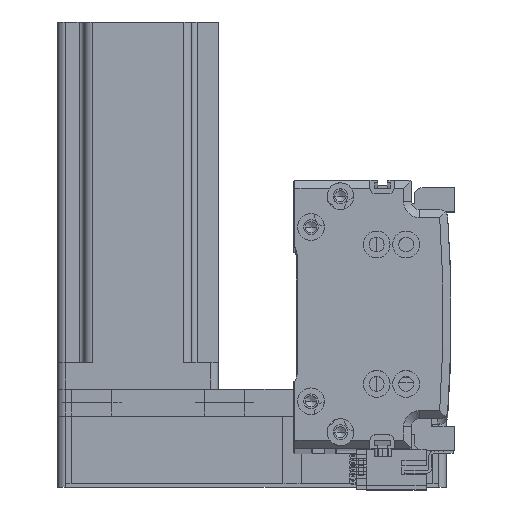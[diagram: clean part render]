
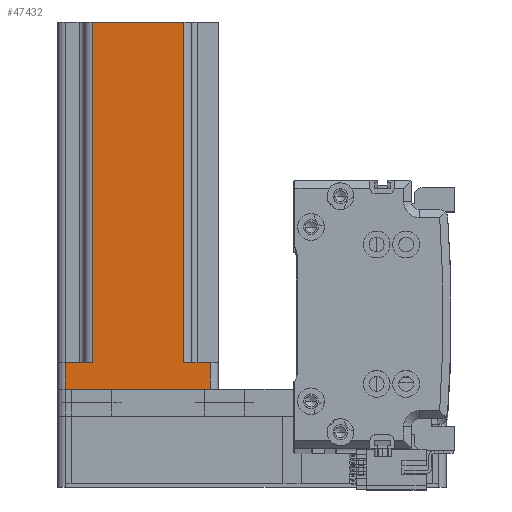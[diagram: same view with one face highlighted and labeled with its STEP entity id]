
A CAD part, top view. The second image highlights one B-rep face of the part: STEP entity #47432.
In plain terms, the highlighted planar face has unit normal (0, 0, 1) as drawn and (0, 1, 0) by its records, which use the part's own axes.
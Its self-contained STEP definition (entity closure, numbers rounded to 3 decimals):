
#334 = DIRECTION ( 'NONE',  ( -1., 0., 0. ) ) ;
#1390 = LINE ( 'NONE', #8682, #32521 ) ;
#1657 = DIRECTION ( 'NONE',  ( -1., 0., 0. ) ) ;
#1842 = ORIENTED_EDGE ( 'NONE', *, *, #44082, .T. ) ;
#2046 = LINE ( 'NONE', #34537, #23225 ) ;
#2702 = LINE ( 'NONE', #3119, #13983 ) ;
#2767 = EDGE_CURVE ( 'NONE', #13855, #40050, #41997, .T. ) ;
#3119 = CARTESIAN_POINT ( 'NONE',  ( -20., 30., 10. ) ) ;
#4446 = ORIENTED_EDGE ( 'NONE', *, *, #44759, .T. ) ;
#4705 = ORIENTED_EDGE ( 'NONE', *, *, #42942, .F. ) ;
#5357 = ORIENTED_EDGE ( 'NONE', *, *, #2767, .T. ) ;
#5372 = EDGE_LOOP ( 'NONE', ( #12897, #5357, #4705, #13556, #36472, #1842, #4446, #18772 ) ) ;
#7037 = LINE ( 'NONE', #27005, #39549 ) ;
#7282 = CARTESIAN_POINT ( 'NONE',  ( -27., 30., 0. ) ) ;
#8682 = CARTESIAN_POINT ( 'NONE',  ( 20., 30., 10. ) ) ;
#10559 = LINE ( 'NONE', #47321, #54307 ) ;
#11594 = CARTESIAN_POINT ( 'NONE',  ( 27., 30., 0. ) ) ;
#12897 = ORIENTED_EDGE ( 'NONE', *, *, #33602, .T. ) ;
#12949 = DIRECTION ( 'NONE',  ( -1., 0., 0. ) ) ;
#13556 = ORIENTED_EDGE ( 'NONE', *, *, #45282, .T. ) ;
#13855 = VERTEX_POINT ( 'NONE', #32602 ) ;
#13983 = VECTOR ( 'NONE', #28452, 1000. ) ;
#15966 = CARTESIAN_POINT ( 'NONE',  ( 27., 30., 137. ) ) ;
#16202 = CARTESIAN_POINT ( 'NONE',  ( 30., 30., 137. ) ) ;
#16845 = CARTESIAN_POINT ( 'NONE',  ( 27., 30., 10. ) ) ;
#18772 = ORIENTED_EDGE ( 'NONE', *, *, #45972, .T. ) ;
#20027 = DIRECTION ( 'NONE',  ( 0., 0., -1. ) ) ;
#20112 = CARTESIAN_POINT ( 'NONE',  ( -17., 30., 137. ) ) ;
#20263 = PLANE ( 'NONE',  #20945 ) ;
#20447 = DIRECTION ( 'NONE',  ( 1., 0., 0. ) ) ;
#20945 = AXIS2_PLACEMENT_3D ( 'NONE', #16202, #45832, #20447 ) ;
#21921 = DIRECTION ( 'NONE',  ( 0., 0., 1. ) ) ;
#23225 = VECTOR ( 'NONE', #26192, 1000. ) ;
#23330 = LINE ( 'NONE', #15966, #45920 ) ;
#24346 = DIRECTION ( 'NONE',  ( 0., 0., 1. ) ) ;
#25234 = VERTEX_POINT ( 'NONE', #27949 ) ;
#26155 = VERTEX_POINT ( 'NONE', #35393 ) ;
#26192 = DIRECTION ( 'NONE',  ( 0., 0., -1. ) ) ;
#26696 = VERTEX_POINT ( 'NONE', #11594 ) ;
#27005 = CARTESIAN_POINT ( 'NONE',  ( 30., 30., 137. ) ) ;
#27504 = FACE_OUTER_BOUND ( 'NONE', #5372, .T. ) ;
#27949 = CARTESIAN_POINT ( 'NONE',  ( -27., 30., 10. ) ) ;
#28452 = DIRECTION ( 'NONE',  ( 1., 0., 0. ) ) ;
#30534 = VECTOR ( 'NONE', #334, 1000. ) ;
#32030 = VECTOR ( 'NONE', #24346, 1000. ) ;
#32521 = VECTOR ( 'NONE', #12949, 1000. ) ;
#32602 = CARTESIAN_POINT ( 'NONE',  ( -17., 30., 10. ) ) ;
#33602 = EDGE_CURVE ( 'NONE', #25234, #13855, #2702, .T. ) ;
#33721 = EDGE_CURVE ( 'NONE', #51626, #26155, #1390, .T. ) ;
#34537 = CARTESIAN_POINT ( 'NONE',  ( 17., 30., 137. ) ) ;
#35393 = CARTESIAN_POINT ( 'NONE',  ( 17., 30., 10. ) ) ;
#36472 = ORIENTED_EDGE ( 'NONE', *, *, #33721, .F. ) ;
#38311 = CARTESIAN_POINT ( 'NONE',  ( 30., 30., 0. ) ) ;
#39549 = VECTOR ( 'NONE', #1657, 1000. ) ;
#39657 = VERTEX_POINT ( 'NONE', #41151 ) ;
#40050 = VERTEX_POINT ( 'NONE', #47975 ) ;
#41151 = CARTESIAN_POINT ( 'NONE',  ( 17., 30., 137. ) ) ;
#41830 = LINE ( 'NONE', #38311, #30534 ) ;
#41997 = LINE ( 'NONE', #20112, #32030 ) ;
#42942 = EDGE_CURVE ( 'NONE', #39657, #40050, #7037, .T. ) ;
#44082 = EDGE_CURVE ( 'NONE', #51626, #26696, #23330, .T. ) ;
#44759 = EDGE_CURVE ( 'NONE', #26696, #50368, #41830, .T. ) ;
#45282 = EDGE_CURVE ( 'NONE', #39657, #26155, #2046, .T. ) ;
#45832 = DIRECTION ( 'NONE',  ( 0., -1., 0. ) ) ;
#45920 = VECTOR ( 'NONE', #20027, 1000. ) ;
#45972 = EDGE_CURVE ( 'NONE', #50368, #25234, #10559, .T. ) ;
#47321 = CARTESIAN_POINT ( 'NONE',  ( -27., 30., 137. ) ) ;
#47432 = ADVANCED_FACE ( 'NONE', ( #27504 ), #20263, .F. ) ;
#47975 = CARTESIAN_POINT ( 'NONE',  ( -17., 30., 137. ) ) ;
#50368 = VERTEX_POINT ( 'NONE', #7282 ) ;
#51626 = VERTEX_POINT ( 'NONE', #16845 ) ;
#54307 = VECTOR ( 'NONE', #21921, 1000. ) ;
